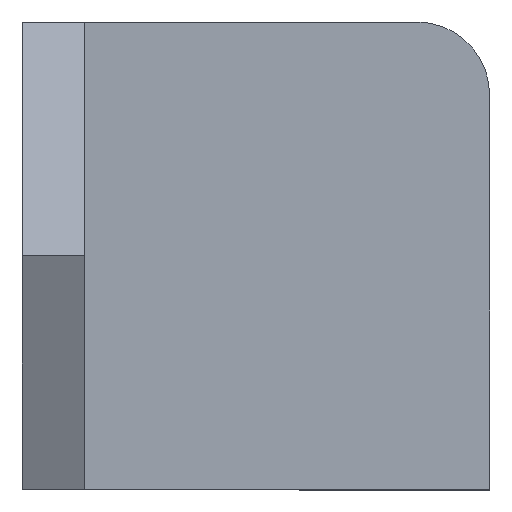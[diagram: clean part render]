
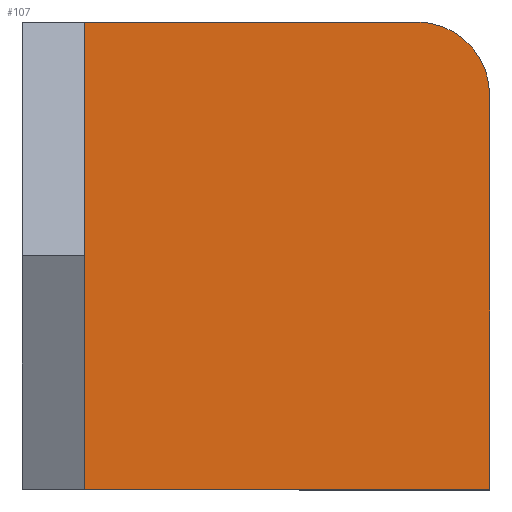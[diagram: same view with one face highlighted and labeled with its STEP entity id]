
A CAD part, top view. The second image highlights one B-rep face of the part: STEP entity #107.
In plain terms, the highlighted planar face has unit normal (0, 0, 1).
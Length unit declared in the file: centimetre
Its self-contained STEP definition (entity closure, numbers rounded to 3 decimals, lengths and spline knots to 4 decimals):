
#35 = LINE ( 'NONE', #1004, #947 ) ;
#43 = FACE_OUTER_BOUND ( 'NONE', #272, .T. ) ;
#57 = VERTEX_POINT ( 'NONE', #923 ) ;
#73 = VERTEX_POINT ( 'NONE', #206 ) ;
#107 = ADVANCED_FACE ( 'NONE', ( #43 ), #721, .T. ) ;
#122 = VECTOR ( 'NONE', #426, 100. ) ;
#130 = DIRECTION ( 'NONE',  ( 1., 0., 0. ) ) ;
#164 = DIRECTION ( 'NONE',  ( 1., 0., 0. ) ) ;
#206 = CARTESIAN_POINT ( 'NONE',  ( 132.7831, 1000., 1000. ) ) ;
#262 = VERTEX_POINT ( 'NONE', #521 ) ;
#271 = ORIENTED_EDGE ( 'NONE', *, *, #483, .F. ) ;
#272 = EDGE_LOOP ( 'NONE', ( #420, #271, #708, #362, #997 ) ) ;
#275 = CARTESIAN_POINT ( 'NONE',  ( 844.2236, 1000., 1000. ) ) ;
#277 = LINE ( 'NONE', #982, #122 ) ;
#320 = VECTOR ( 'NONE', #657, 100. ) ;
#321 = CARTESIAN_POINT ( 'NONE',  ( 0., 0., 1000. ) ) ;
#362 = ORIENTED_EDGE ( 'NONE', *, *, #806, .T. ) ;
#381 = DIRECTION ( 'NONE',  ( 0., 1., 0. ) ) ;
#420 = ORIENTED_EDGE ( 'NONE', *, *, #865, .T. ) ;
#426 = DIRECTION ( 'NONE',  ( -1., 0., 0. ) ) ;
#483 = EDGE_CURVE ( 'NONE', #1042, #73, #35, .T. ) ;
#491 = LINE ( 'NONE', #321, #320 ) ;
#495 = EDGE_CURVE ( 'NONE', #57, #1102, #1130, .T. ) ;
#521 = CARTESIAN_POINT ( 'NONE',  ( 1000., 0., 1000. ) ) ;
#548 = LINE ( 'NONE', #900, #773 ) ;
#590 = EDGE_CURVE ( 'NONE', #1042, #262, #491, .T. ) ;
#657 = DIRECTION ( 'NONE',  ( 1., 0., 0. ) ) ;
#708 = ORIENTED_EDGE ( 'NONE', *, *, #590, .T. ) ;
#720 = DIRECTION ( 'NONE',  ( 0., 1., 0. ) ) ;
#721 = PLANE ( 'NONE',  #903 ) ;
#735 = CARTESIAN_POINT ( 'NONE',  ( 844.2236, 844.2236, 1000. ) ) ;
#759 = CARTESIAN_POINT ( 'NONE',  ( 132.7831, 0., 1000. ) ) ;
#773 = VECTOR ( 'NONE', #720, 100. ) ;
#806 = EDGE_CURVE ( 'NONE', #262, #57, #548, .T. ) ;
#865 = EDGE_CURVE ( 'NONE', #1102, #73, #277, .T. ) ;
#866 = AXIS2_PLACEMENT_3D ( 'NONE', #735, #1093, #130 ) ;
#900 = CARTESIAN_POINT ( 'NONE',  ( 1000., 1000., 1000. ) ) ;
#901 = CARTESIAN_POINT ( 'NONE',  ( 0., 0., 1000. ) ) ;
#903 = AXIS2_PLACEMENT_3D ( 'NONE', #901, #1045, #164 ) ;
#923 = CARTESIAN_POINT ( 'NONE',  ( 1000., 844.2236, 1000. ) ) ;
#947 = VECTOR ( 'NONE', #381, 100. ) ;
#982 = CARTESIAN_POINT ( 'NONE',  ( 0., 1000., 1000. ) ) ;
#997 = ORIENTED_EDGE ( 'NONE', *, *, #495, .T. ) ;
#1004 = CARTESIAN_POINT ( 'NONE',  ( 132.7831, 0., 1000. ) ) ;
#1042 = VERTEX_POINT ( 'NONE', #759 ) ;
#1045 = DIRECTION ( 'NONE',  ( 0., 0., 1. ) ) ;
#1093 = DIRECTION ( 'NONE',  ( 0., 0., 1. ) ) ;
#1102 = VERTEX_POINT ( 'NONE', #275 ) ;
#1130 = CIRCLE ( 'NONE', #866, 155.7764 ) ;
